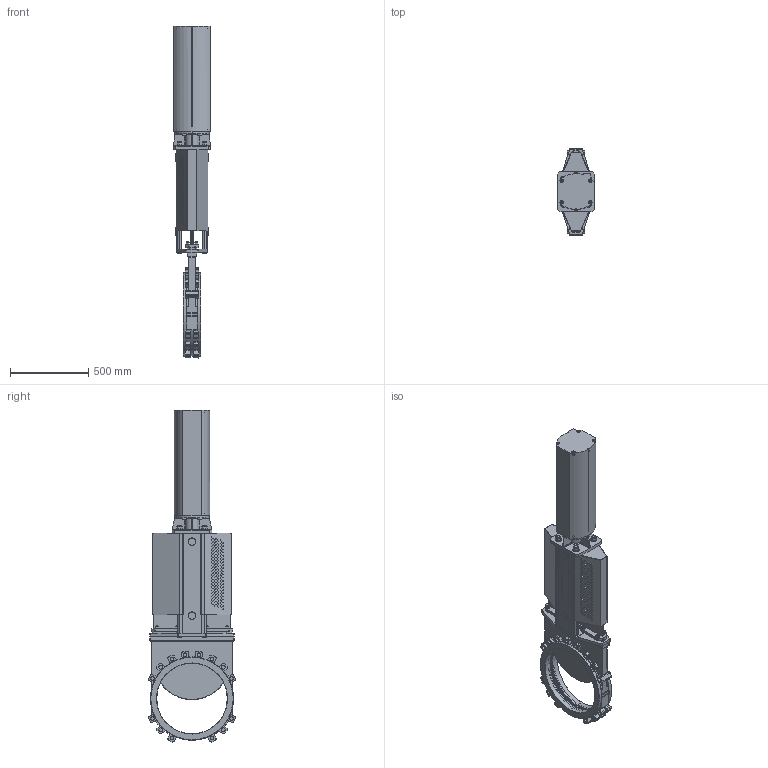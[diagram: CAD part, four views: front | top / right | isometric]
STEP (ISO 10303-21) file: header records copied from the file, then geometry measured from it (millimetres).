
FILE_DESCRIPTION(('STEP AP203'),'1');
FILE_NAME('G:/KONSTRUK/3-d block för CD/XV VALVE/EC/XV-DN450-EC200.stp','2013-01-24T11:09:03',(' '),(' '),'Spatial InterOp 3D',' ',' ');
FILE_SCHEMA(('CONFIG_CONTROL_DESIGN'));
Length unit declared in the file: millimetre
Products named in the file (3): 1; 2; 3
Bounding box: 236 x 555.7 x 2121.45 mm (x, y, z)
Volume: 35035527.5 mm3; surface area: 5529143 mm2
Topology: 3 solids, 47 shells, 2996 faces, 8020 edges, 5174 vertices
Faces by surface type: cylinder 1491, plane 1063, cone 316, torus 106, bspline 12, sphere 8
Entity records: 97776 total; most frequent: CARTESIAN_POINT 20596, DIRECTION 17048, ORIENTED_EDGE 15896, EDGE_CURVE 7948, AXIS2_PLACEMENT_3D 6642, VERTEX_POINT 5174, LINE 3764, VECTOR 3764
